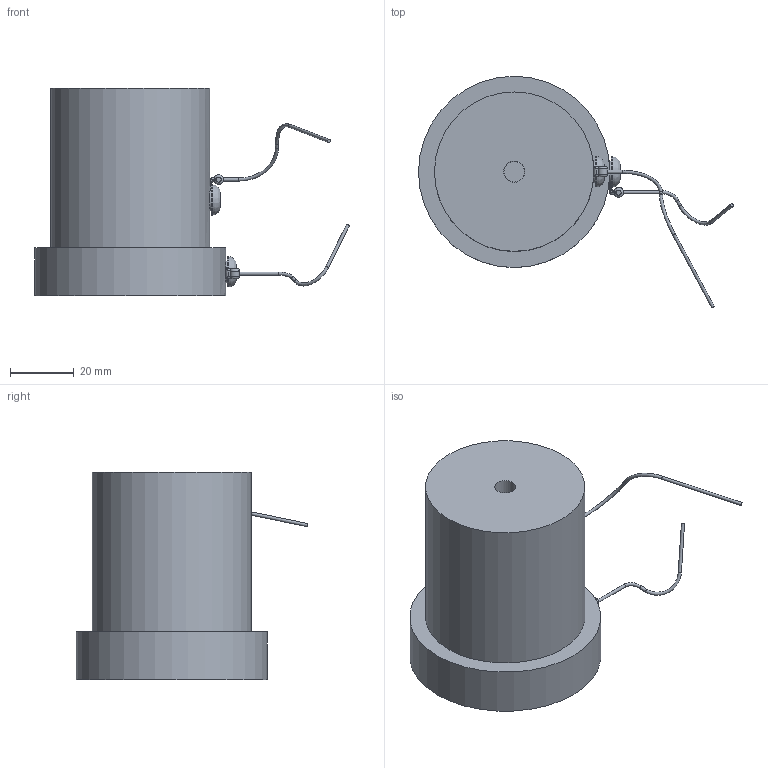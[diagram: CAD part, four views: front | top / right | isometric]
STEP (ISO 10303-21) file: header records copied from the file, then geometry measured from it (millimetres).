
FILE_DESCRIPTION(/* description */ ('BARRA TRAFILATA Ø50 Lg.55'),/* implementation_level */ '2;1');
FILE_NAME(/* name */ 'C:\Local Work Area\Progetti\AP\CALIBRI\04.50.stp',/* time_stamp */ '2015-04-02T09:21:45+02:00',/* author */ ('CAD5'),/* organization */ (''),/* preprocessor_version */ 'ST-DEVELOPER v15.2',/* originating_system */ 'Autodesk Inventor 2014',/* authorisation */ '');
FILE_SCHEMA (('AUTOMOTIVE_DESIGN { 1 0 10303 214 3 1 1 }'));
Length unit declared in the file: millimetre
Products named in the file (8): 04.51; 04.52; VITE TCEI M008X020 UNI 5931; catenella-1; catenella-2; catenella; Vite TBEI M5x10 UNI-ISO 7380; 04.50
Bounding box: 98.78 x 72.66 x 65 mm (x, y, z)
Volume: 139577.5 mm3; surface area: 24500.2 mm2
Topology: 9 solids, 9 shells, 126 faces, 272 edges, 162 vertices
Faces by surface type: plane 54, cylinder 43, torus 13, cone 10, bspline 6
Full cylindrical faces by diameter (mm): 1 x6, 4.134 x2, 5 x2, 5.2 x2, 6.5 x1, 6.647 x2, 8 x1, 8.2 x1, 9.5 x2, 13 x1, 14 x1, 50 x1, 60 x1
Entity records: 3213 total; most frequent: CARTESIAN_POINT 869, DIRECTION 484, ORIENTED_EDGE 386, AXIS2_PLACEMENT_3D 207, EDGE_CURVE 191, EDGE_LOOP 159, VERTEX_POINT 132, ADVANCED_FACE 112
